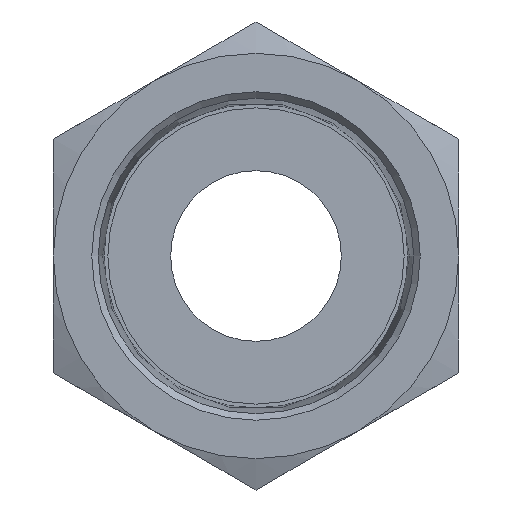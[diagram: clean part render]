
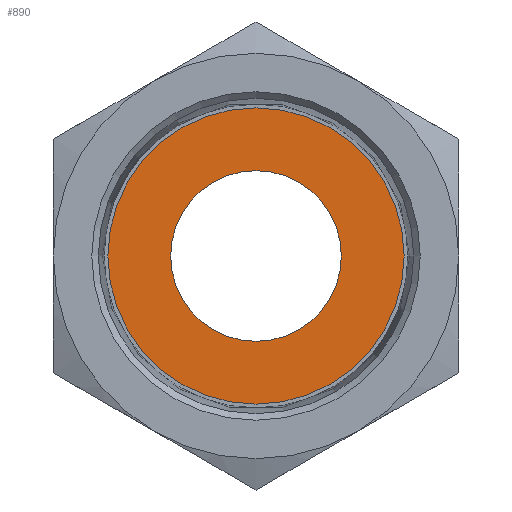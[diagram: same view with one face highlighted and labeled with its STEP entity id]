
A CAD part, front view. The second image highlights one B-rep face of the part: STEP entity #890.
In plain terms, the highlighted planar face has unit normal (0, -1, 0).
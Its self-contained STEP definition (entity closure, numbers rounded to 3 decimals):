
#33=FACE_BOUND('',#170,.T.);
#110=FACE_OUTER_BOUND('',#169,.T.);
#169=EDGE_LOOP('',(#737));
#170=EDGE_LOOP('',(#738));
#211=CIRCLE('',#972,4.);
#234=CIRCLE('',#1005,6.944);
#416=VERTEX_POINT('',#1491);
#434=VERTEX_POINT('',#1548);
#519=EDGE_CURVE('',#416,#416,#211,.T.);
#548=EDGE_CURVE('',#434,#434,#234,.T.);
#737=ORIENTED_EDGE('',*,*,#548,.T.);
#738=ORIENTED_EDGE('',*,*,#519,.T.);
#849=PLANE('',#1006);
#890=ADVANCED_FACE('',(#110,#33),#849,.T.);
#972=AXIS2_PLACEMENT_3D('',#1493,#1160,#1161);
#1005=AXIS2_PLACEMENT_3D('',#1550,#1232,#1233);
#1006=AXIS2_PLACEMENT_3D('',#1551,#1234,#1235);
#1160=DIRECTION('center_axis',(0.,1.,0.));
#1161=DIRECTION('ref_axis',(1.,0.,0.));
#1232=DIRECTION('center_axis',(0.,-1.,0.));
#1233=DIRECTION('ref_axis',(1.,0.,0.));
#1234=DIRECTION('center_axis',(0.,-1.,0.));
#1235=DIRECTION('ref_axis',(1.,0.,0.));
#1491=CARTESIAN_POINT('',(-4.,12.,0.));
#1493=CARTESIAN_POINT('Origin',(0.,12.,0.));
#1548=CARTESIAN_POINT('',(-6.944,12.,0.));
#1550=CARTESIAN_POINT('Origin',(0.,12.,0.));
#1551=CARTESIAN_POINT('Origin',(0.,12.,0.));
